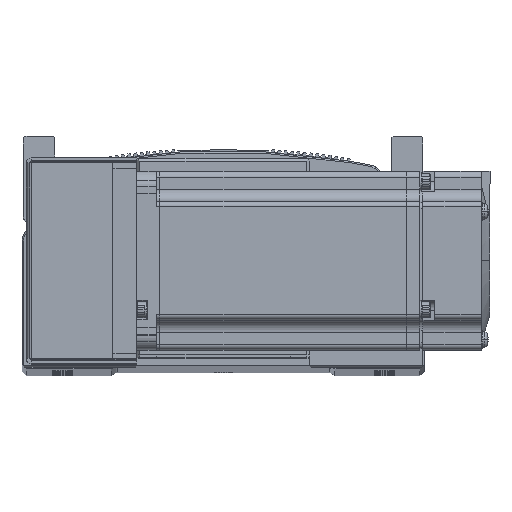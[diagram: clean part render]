
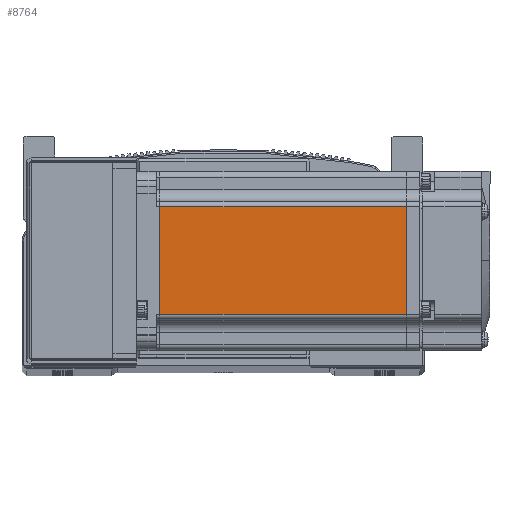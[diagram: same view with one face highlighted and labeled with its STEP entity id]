
A CAD part, top view. The second image highlights one B-rep face of the part: STEP entity #8764.
In plain terms, the highlighted planar face has unit normal (0, 0, 1) as drawn and (0, 0, -1) by its records, which use the part's own axes.
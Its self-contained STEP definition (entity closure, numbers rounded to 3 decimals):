
#8764 = ADVANCED_FACE ( 'NONE', ( #38527 ), #74975, .T. ) ;
#22382 = VERTEX_POINT ( 'NONE', #36780 ) ;
#22388 = VERTEX_POINT ( 'NONE', #36788 ) ;
#22405 = VERTEX_POINT ( 'NONE', #36781 ) ;
#22411 = VERTEX_POINT ( 'NONE', #36767 ) ;
#24804 = LINE ( 'NONE', #42376, #24824 ) ;
#24824 = VECTOR ( 'NONE', #42364, 1000. ) ;
#24827 = LINE ( 'NONE', #42417, #24828 ) ;
#24828 = VECTOR ( 'NONE', #42411, 1000. ) ;
#24850 = LINE ( 'NONE', #42430, #24915 ) ;
#24892 = VECTOR ( 'NONE', #42510, 1000. ) ;
#24893 = LINE ( 'NONE', #42483, #24892 ) ;
#24915 = VECTOR ( 'NONE', #42459, 1000. ) ;
#36767 = CARTESIAN_POINT ( 'NONE',  ( -7.75, -18., -30. ) ) ;
#36780 = CARTESIAN_POINT ( 'NONE',  ( -90.45, -18., -30. ) ) ;
#36781 = CARTESIAN_POINT ( 'NONE',  ( -90.45, 18., -30. ) ) ;
#36788 = CARTESIAN_POINT ( 'NONE',  ( -7.75, 18., -30. ) ) ;
#38527 = FACE_OUTER_BOUND ( 'NONE', #43409, .T. ) ;
#42364 = DIRECTION ( 'NONE',  ( 1., 0., 0. ) ) ;
#42376 = CARTESIAN_POINT ( 'NONE',  ( -6.5, 18., -30. ) ) ;
#42411 = DIRECTION ( 'NONE',  ( 0., -1., 0. ) ) ;
#42417 = CARTESIAN_POINT ( 'NONE',  ( -7.75, 25., -30. ) ) ;
#42430 = CARTESIAN_POINT ( 'NONE',  ( -90.45, 25., -30. ) ) ;
#42459 = DIRECTION ( 'NONE',  ( 0., 1., 0. ) ) ;
#42483 = CARTESIAN_POINT ( 'NONE',  ( -6.5, -18., -30. ) ) ;
#42510 = DIRECTION ( 'NONE',  ( -1., 0., 0. ) ) ;
#43409 = EDGE_LOOP ( 'NONE', ( #78576, #78585, #78558, #78579 ) ) ;
#57857 = EDGE_CURVE ( 'NONE', #22405, #22388, #24804, .T. ) ;
#57881 = EDGE_CURVE ( 'NONE', #22388, #22411, #24827, .T. ) ;
#57922 = EDGE_CURVE ( 'NONE', #22382, #22405, #24850, .T. ) ;
#58034 = EDGE_CURVE ( 'NONE', #22411, #22382, #24893, .T. ) ;
#69665 = AXIS2_PLACEMENT_3D ( 'NONE', #74996, #74997, #74982 ) ;
#74975 = PLANE ( 'NONE',  #69665 ) ;
#74982 = DIRECTION ( 'NONE',  ( -1., 0., 0. ) ) ;
#74996 = CARTESIAN_POINT ( 'NONE',  ( -6.5, 25., -30. ) ) ;
#74997 = DIRECTION ( 'NONE',  ( 0., 0., -1. ) ) ;
#78558 = ORIENTED_EDGE ( 'NONE', *, *, #57922, .T. ) ;
#78576 = ORIENTED_EDGE ( 'NONE', *, *, #57881, .T. ) ;
#78579 = ORIENTED_EDGE ( 'NONE', *, *, #57857, .T. ) ;
#78585 = ORIENTED_EDGE ( 'NONE', *, *, #58034, .T. ) ;
